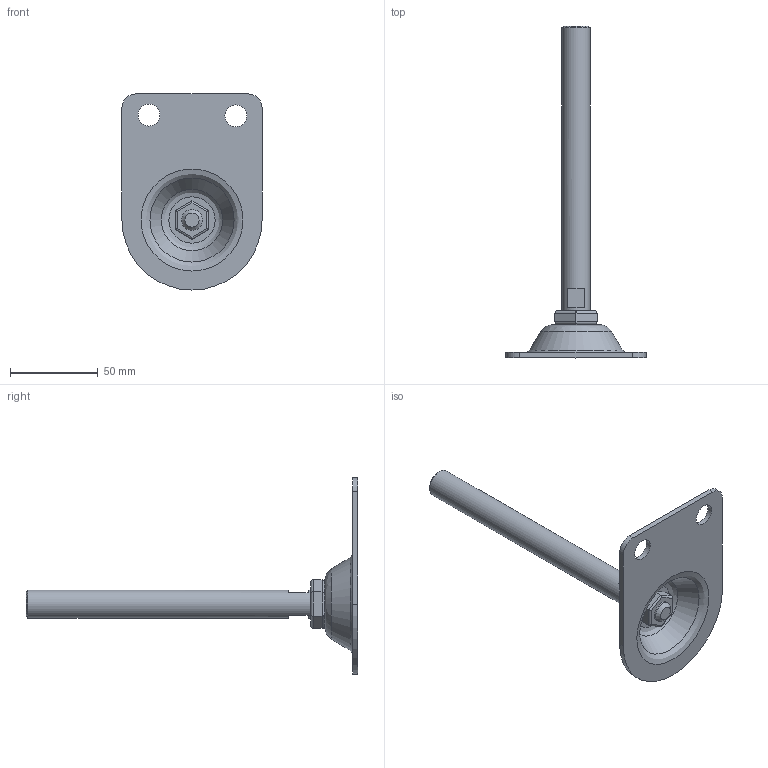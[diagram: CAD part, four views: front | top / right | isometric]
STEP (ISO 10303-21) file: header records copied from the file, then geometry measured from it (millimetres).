
FILE_DESCRIPTION(('STEP AP203'),'2;1');
FILE_NAME('15730-FIX.stp','2015-05-11T11:35:25',(''),(''),'2008.1.107','THINKDESIGN','');
FILE_SCHEMA(('CONFIG_CONTROL_DESIGN'));
Length unit declared in the file: millimetre
Bounding box: 80 x 189.5 x 112 mm (x, y, z)
Volume: 65646.9 mm3; surface area: 30726.4 mm2
Topology: 5 solids, 5 shells, 75 faces, 177 edges, 116 vertices
Faces by surface type: plane 33, cylinder 32, bspline 10
Full cylindrical faces by diameter (mm): 12 x1, 12.5 x3, 16 x1
Entity records: 2826 total; most frequent: CARTESIAN_POINT 931, ORIENTED_EDGE 352, DIRECTION 343, EDGE_CURVE 176, AXIS2_PLACEMENT_3D 125, VERTEX_POINT 114, VECTOR 93, LINE 93
